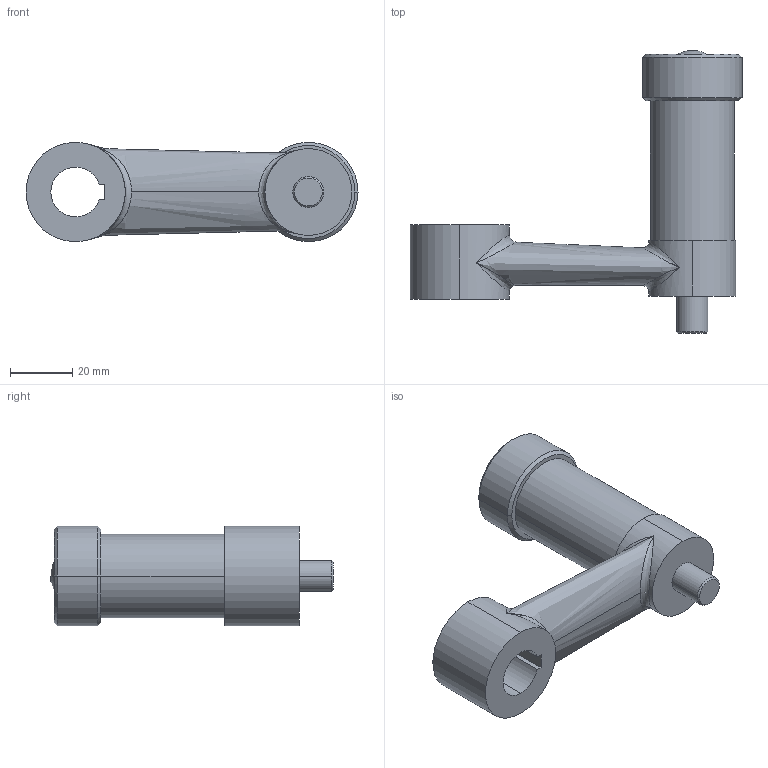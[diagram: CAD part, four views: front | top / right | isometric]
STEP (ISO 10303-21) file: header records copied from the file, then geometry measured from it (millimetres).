
FILE_DESCRIPTION (( 'STEP AP214' ), '1' );
FILE_NAME ('558-75-K16.step', '2020-05-29T17:03:05', ( '' ), ( '' ), 'SwSTEP 2.0', 'SolidWorks 2019', '' );
FILE_SCHEMA (( 'AUTOMOTIVE_DESIGN' ));
Length unit declared in the file: millimetre
Products named in the file (1): 558-75-K16
Bounding box: 107 x 91.2 x 32 mm (x, y, z)
Volume: 77252.8 mm3; surface area: 16307.1 mm2
Topology: 1 solids, 1 shells, 37 faces, 86 edges, 49 vertices
Faces by surface type: cylinder 13, plane 10, cone 6, bspline 6, sphere 2
Entity records: 3923 total; most frequent: CARTESIAN_POINT 2917, DIRECTION 164, ORIENTED_EDGE 156, EDGE_CURVE 78, AXIS2_PLACEMENT_3D 68, VERTEX_POINT 49, EDGE_LOOP 45, ADVANCED_FACE 37
